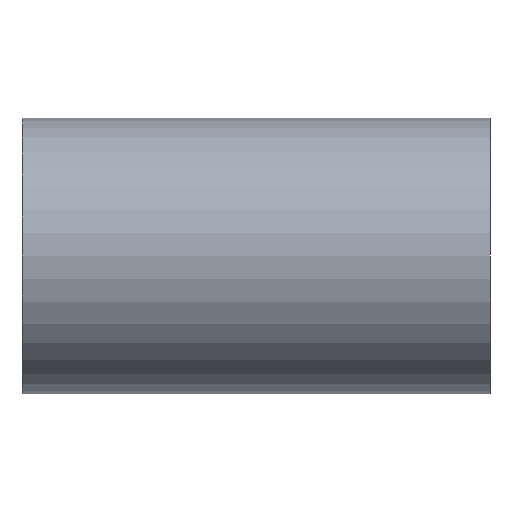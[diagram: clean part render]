
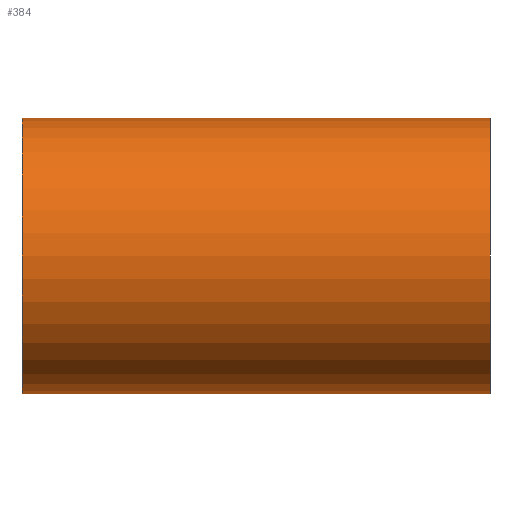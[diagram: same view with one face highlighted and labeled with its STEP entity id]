
A CAD part, front view. The second image highlights one B-rep face of the part: STEP entity #384.
In plain terms, the highlighted cylindrical face has radius 10.325 mm (diameter 20.65 mm), a partial arc.
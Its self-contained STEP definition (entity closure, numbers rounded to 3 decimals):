
#384 = ADVANCED_FACE('',(#385),#400,.T.);
#385 = FACE_BOUND('',#386,.F.);
#386 = EDGE_LOOP('',(#387,#423,#449,#478));
#387 = ORIENTED_EDGE('',*,*,#388,.F.);
#388 = EDGE_CURVE('',#389,#391,#393,.T.);
#389 = VERTEX_POINT('',#390);
#390 = CARTESIAN_POINT('',(-17.5,-0.35,10.319));
#391 = VERTEX_POINT('',#392);
#392 = CARTESIAN_POINT('',(-17.5,-0.35,-10.319));
#393 = SURFACE_CURVE('',#394,(#399,#411),.PCURVE_S1.);
#394 = CIRCLE('',#395,10.325);
#395 = AXIS2_PLACEMENT_3D('',#396,#397,#398);
#396 = CARTESIAN_POINT('',(-17.5,0.,0.));
#397 = DIRECTION('',(1.,0.,0.));
#398 = DIRECTION('',(0.,1.,0.));
#399 = PCURVE('',#400,#405);
#400 = CYLINDRICAL_SURFACE('',#401,10.325);
#401 = AXIS2_PLACEMENT_3D('',#402,#403,#404);
#402 = CARTESIAN_POINT('',(-17.5,0.,0.));
#403 = DIRECTION('',(-1.,-0.,-0.));
#404 = DIRECTION('',(0.,1.,0.));
#405 = DEFINITIONAL_REPRESENTATION('',(#406),#410);
#406 = LINE('',#407,#408);
#407 = CARTESIAN_POINT('',(-0.,0.));
#408 = VECTOR('',#409,1.);
#409 = DIRECTION('',(-1.,0.));
#410 = ( GEOMETRIC_REPRESENTATION_CONTEXT(2) 
PARAMETRIC_REPRESENTATION_CONTEXT() REPRESENTATION_CONTEXT('2D SPACE',''
  ) );
#411 = PCURVE('',#412,#417);
#412 = PLANE('',#413);
#413 = AXIS2_PLACEMENT_3D('',#414,#415,#416);
#414 = CARTESIAN_POINT('',(-17.5,0.,0.)
  );
#415 = DIRECTION('',(1.,0.,0.));
#416 = DIRECTION('',(-0.,0.,1.));
#417 = DEFINITIONAL_REPRESENTATION('',(#418),#422);
#418 = CIRCLE('',#419,10.325);
#419 = AXIS2_PLACEMENT_2D('',#420,#421);
#420 = CARTESIAN_POINT('',(0.,0.));
#421 = DIRECTION('',(0.,-1.));
#422 = ( GEOMETRIC_REPRESENTATION_CONTEXT(2) 
PARAMETRIC_REPRESENTATION_CONTEXT() REPRESENTATION_CONTEXT('2D SPACE',''
  ) );
#423 = ORIENTED_EDGE('',*,*,#424,.F.);
#424 = EDGE_CURVE('',#425,#389,#427,.T.);
#425 = VERTEX_POINT('',#426);
#426 = CARTESIAN_POINT('',(17.5,-0.35,10.319));
#427 = SURFACE_CURVE('',#428,(#432,#438),.PCURVE_S1.);
#428 = LINE('',#429,#430);
#429 = CARTESIAN_POINT('',(-17.5,-0.35,10.319));
#430 = VECTOR('',#431,1.);
#431 = DIRECTION('',(-1.,-0.,-0.));
#432 = PCURVE('',#400,#433);
#433 = DEFINITIONAL_REPRESENTATION('',(#434),#437);
#434 = B_SPLINE_CURVE_WITH_KNOTS('',1,(#435,#436),.UNSPECIFIED.,.F.,.F.,
  (2,2),(-35.,0.),.PIECEWISE_BEZIER_KNOTS.);
#435 = CARTESIAN_POINT('',(-1.605,-35.));
#436 = CARTESIAN_POINT('',(-1.605,0.));
#437 = ( GEOMETRIC_REPRESENTATION_CONTEXT(2) 
PARAMETRIC_REPRESENTATION_CONTEXT() REPRESENTATION_CONTEXT('2D SPACE',''
  ) );
#438 = PCURVE('',#439,#444);
#439 = PLANE('',#440);
#440 = AXIS2_PLACEMENT_3D('',#441,#442,#443);
#441 = CARTESIAN_POINT('',(-18.5,-0.35,-11.325));
#442 = DIRECTION('',(0.,1.,0.));
#443 = DIRECTION('',(0.,0.,1.));
#444 = DEFINITIONAL_REPRESENTATION('',(#445),#448);
#445 = B_SPLINE_CURVE_WITH_KNOTS('',1,(#446,#447),.UNSPECIFIED.,.F.,.F.,
  (2,2),(-35.,0.),.PIECEWISE_BEZIER_KNOTS.);
#446 = CARTESIAN_POINT('',(21.644,36.));
#447 = CARTESIAN_POINT('',(21.644,1.));
#448 = ( GEOMETRIC_REPRESENTATION_CONTEXT(2) 
PARAMETRIC_REPRESENTATION_CONTEXT() REPRESENTATION_CONTEXT('2D SPACE',''
  ) );
#449 = ORIENTED_EDGE('',*,*,#450,.T.);
#450 = EDGE_CURVE('',#425,#451,#453,.T.);
#451 = VERTEX_POINT('',#452);
#452 = CARTESIAN_POINT('',(17.5,-0.35,-10.319));
#453 = SURFACE_CURVE('',#454,(#459,#466),.PCURVE_S1.);
#454 = CIRCLE('',#455,10.325);
#455 = AXIS2_PLACEMENT_3D('',#456,#457,#458);
#456 = CARTESIAN_POINT('',(17.5,0.,0.));
#457 = DIRECTION('',(1.,0.,0.));
#458 = DIRECTION('',(0.,1.,0.));
#459 = PCURVE('',#400,#460);
#460 = DEFINITIONAL_REPRESENTATION('',(#461),#465);
#461 = LINE('',#462,#463);
#462 = CARTESIAN_POINT('',(-0.,-35.));
#463 = VECTOR('',#464,1.);
#464 = DIRECTION('',(-1.,0.));
#465 = ( GEOMETRIC_REPRESENTATION_CONTEXT(2) 
PARAMETRIC_REPRESENTATION_CONTEXT() REPRESENTATION_CONTEXT('2D SPACE',''
  ) );
#466 = PCURVE('',#467,#472);
#467 = PLANE('',#468);
#468 = AXIS2_PLACEMENT_3D('',#469,#470,#471);
#469 = CARTESIAN_POINT('',(17.5,0.,0.)
  );
#470 = DIRECTION('',(1.,0.,0.));
#471 = DIRECTION('',(-0.,0.,1.));
#472 = DEFINITIONAL_REPRESENTATION('',(#473),#477);
#473 = CIRCLE('',#474,10.325);
#474 = AXIS2_PLACEMENT_2D('',#475,#476);
#475 = CARTESIAN_POINT('',(0.,0.));
#476 = DIRECTION('',(0.,-1.));
#477 = ( GEOMETRIC_REPRESENTATION_CONTEXT(2) 
PARAMETRIC_REPRESENTATION_CONTEXT() REPRESENTATION_CONTEXT('2D SPACE',''
  ) );
#478 = ORIENTED_EDGE('',*,*,#479,.T.);
#479 = EDGE_CURVE('',#451,#391,#480,.T.);
#480 = SURFACE_CURVE('',#481,(#485,#491),.PCURVE_S1.);
#481 = LINE('',#482,#483);
#482 = CARTESIAN_POINT('',(-17.5,-0.35,-10.319));
#483 = VECTOR('',#484,1.);
#484 = DIRECTION('',(-1.,-0.,-0.));
#485 = PCURVE('',#400,#486);
#486 = DEFINITIONAL_REPRESENTATION('',(#487),#490);
#487 = B_SPLINE_CURVE_WITH_KNOTS('',1,(#488,#489),.UNSPECIFIED.,.F.,.F.,
  (2,2),(-35.,0.),.PIECEWISE_BEZIER_KNOTS.);
#488 = CARTESIAN_POINT('',(-4.678,-35.));
#489 = CARTESIAN_POINT('',(-4.678,0.));
#490 = ( GEOMETRIC_REPRESENTATION_CONTEXT(2) 
PARAMETRIC_REPRESENTATION_CONTEXT() REPRESENTATION_CONTEXT('2D SPACE',''
  ) );
#491 = PCURVE('',#492,#497);
#492 = PLANE('',#493);
#493 = AXIS2_PLACEMENT_3D('',#494,#495,#496);
#494 = CARTESIAN_POINT('',(-18.5,-0.35,-11.325));
#495 = DIRECTION('',(0.,1.,0.));
#496 = DIRECTION('',(0.,0.,1.));
#497 = DEFINITIONAL_REPRESENTATION('',(#498),#501);
#498 = B_SPLINE_CURVE_WITH_KNOTS('',1,(#499,#500),.UNSPECIFIED.,.F.,.F.,
  (2,2),(-35.,0.),.PIECEWISE_BEZIER_KNOTS.);
#499 = CARTESIAN_POINT('',(1.006,36.));
#500 = CARTESIAN_POINT('',(1.006,1.));
#501 = ( GEOMETRIC_REPRESENTATION_CONTEXT(2) 
PARAMETRIC_REPRESENTATION_CONTEXT() REPRESENTATION_CONTEXT('2D SPACE',''
  ) );
